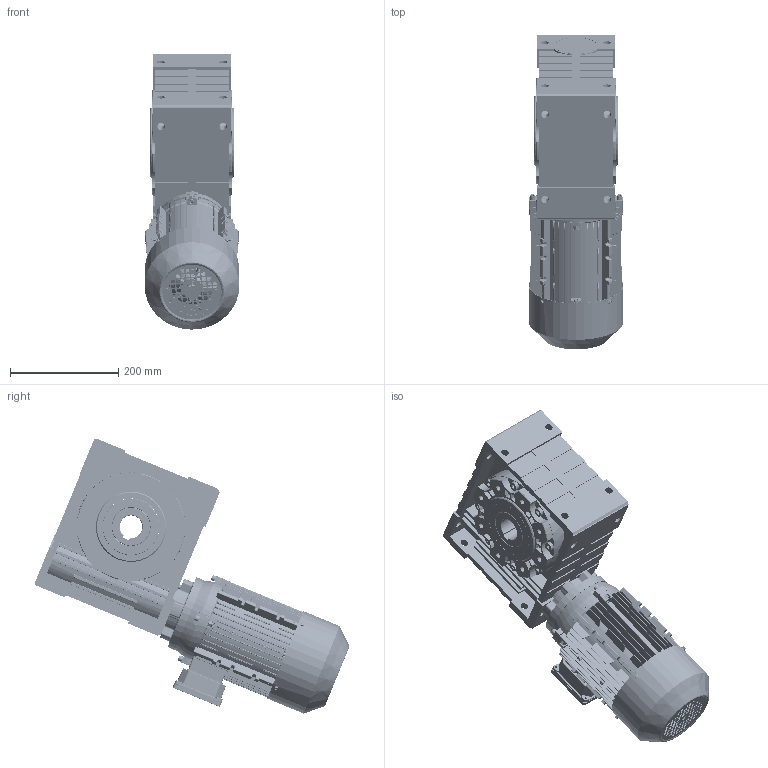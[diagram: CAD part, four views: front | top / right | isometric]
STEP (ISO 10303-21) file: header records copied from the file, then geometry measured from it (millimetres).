
FILE_DESCRIPTION (( 'STEP AP214' ), '1' );
FILE_NAME ('CMRV110_MX3-90L.STEP', '2018-07-31T09:51:39', ( '' ), ( '' ), 'SwSTEP 2.0', 'SolidWorks 2012', '' );
FILE_SCHEMA (( 'AUTOMOTIVE_DESIGN' ));
Length unit declared in the file: millimetre
Products named in the file (29): MX3-90L_B14; IE3-90L flange B14; hexagon nuts grade c gb_GB_FASTENER_NUT_SNC1 M6-N_1; IE3 90L  oil seal_1; IE3 90L cable glandsM16_1; cross recessed pan head screws gb_GB_CROSS_SCREWS_TYPE1 M5X10-10  H type-N_1; cross recessed pan head screws gb_GB_CROSS_SCREWS_TYPE1 M4X5-5  H type-N_1; plain washers-n series-grade a gb_GB_FASTENER_WASHER_PWNA 4_1; IE3 90L grouding mark_1; circlips for shaft--type a large gb_GB_CONNECTING_PIECE_RING_RRA 19_1; IE3 90L flange_1; hexagon socket head cap screws gb_GB_FASTENER_SCREWS_HSHCS M6X30-N_1; hexagon flange head tapping screws gb_GB_SQUARE_AND_HEXAGON_TYPE137 ST4.2X9.5 F-N_1; cross recessed pan head tapping screws gb_GB_CROSS_SCREWS_TYPE128 ST4.2X9.5 H C-N_1; spring lock washers--normal type gb_GB_FASTENER_WASHER_SW 6_1; IE3 90L terminal box cover_1; IE3 90L terminal box_1; plain parallel keys_GB_CONNECTING_PIECE_KEYS_CSK 8X40_1; IE3 90L fan cover_1; IE3 90L fan_1; IE3 90L rotor_1; IE3 90L casing_1; FCNDK110-90B14; GBú»T 70ú«1-2000-+-¨¢ÃÈ¦Í¨-À-¦ÂñM8í-30(8ú«8+Â); 0201111109002; 110火耳; 2_1; 1_1; CMRV110_MX3-90L
Assembly tree (63 placements, depth 3):
  CMRV110_MX3-90L
    FCNDK110-90B14
      1_1
      2_1
      110火耳
      0201111109002
      GBú»T 70ú«1-2000-+-¨¢ÃÈ¦Í¨-À-¦ÂñM8í-30(8ú«8+Â)  x6
    MX3-90L_B14
      IE3 90L casing_1
      IE3 90L rotor_1
      IE3 90L fan_1
      IE3 90L fan cover_1
      plain parallel keys_GB_CONNECTING_PIECE_KEYS_CSK 8X40_1
      IE3 90L terminal box_1
      IE3 90L terminal box cover_1
      spring lock washers--normal type gb_GB_FASTENER_WASHER_SW 6_1  x8
      cross recessed pan head tapping screws gb_GB_CROSS_SCREWS_TYPE128 ST4.2X9.5 H C-N_1  x4
      hexagon flange head tapping screws gb_GB_SQUARE_AND_HEXAGON_TYPE137 ST4.2X9.5 F-N_1  x4
      hexagon socket head cap screws gb_GB_FASTENER_SCREWS_HSHCS M6X30-N_1  x8
      IE3 90L flange_1
      circlips for shaft--type a large gb_GB_CONNECTING_PIECE_RING_RRA 19_1
      IE3 90L grouding mark_1
      plain washers-n series-grade a gb_GB_FASTENER_WASHER_PWNA 4_1
      cross recessed pan head screws gb_GB_CROSS_SCREWS_TYPE1 M4X5-5  H type-N_1
      cross recessed pan head screws gb_GB_CROSS_SCREWS_TYPE1 M5X10-10  H type-N_1  x4
      IE3 90L cable glandsM16_1  x2
      IE3 90L  oil seal_1
      hexagon nuts grade c gb_GB_FASTENER_NUT_SNC1 M6-N_1  x7
      IE3-90L flange B14
Bounding box: 175.1 x 582.57 x 509.37 mm (x, y, z)
Volume: 10377059.7 mm3; surface area: 1592296.2 mm2
Topology: 61 solids, 62 shells, 5789 faces, 14767 edges, 9185 vertices
Faces by surface type: plane 2211, cylinder 1961, bspline 1098, cone 365, sphere 100, torus 54
Entity records: 192601 total; most frequent: CARTESIAN_POINT 76334, ORIENTED_EDGE 25780, DIRECTION 21524, EDGE_CURVE 12890, VERTEX_POINT 8098, AXIS2_PLACEMENT_3D 7738, VECTOR 6048, LINE 6048
